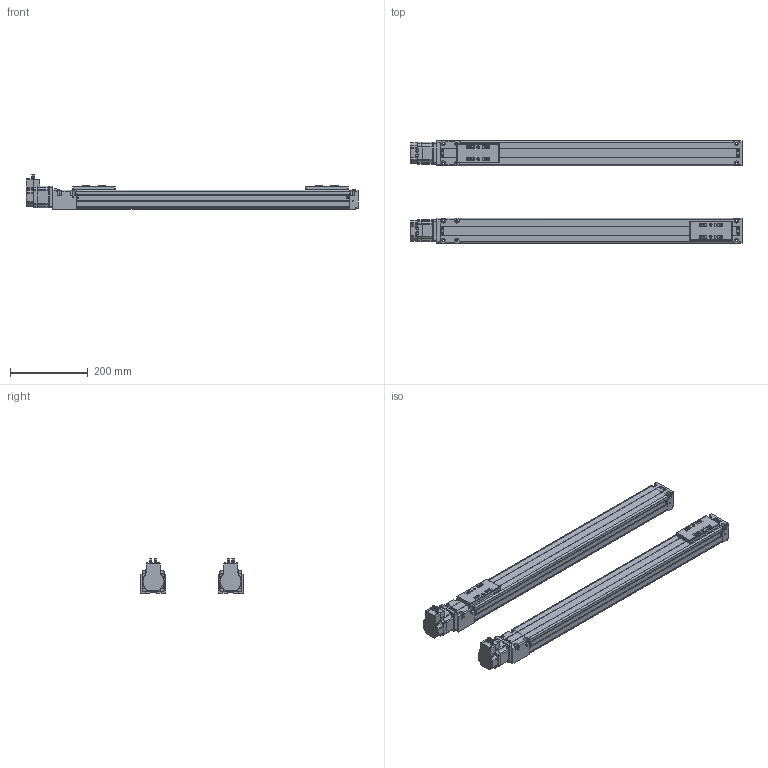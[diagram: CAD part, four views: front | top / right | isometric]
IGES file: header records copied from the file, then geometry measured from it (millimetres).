
Start section: IMSI TurboCAD v14.0
Global section: author: NULL; organization: NULL; date: 20151219.151424; units: millimetre
Bounding box: 856 x 264 x 87.99 mm (x, y, z)
Surface area: 899143 mm2 (no closed solid volume)
Topology: 0 solids, 0 shells, 2698 faces, 14834 edges, 14806 vertices
Faces by surface type: extrusion 1960, revolution 668, bspline 70
